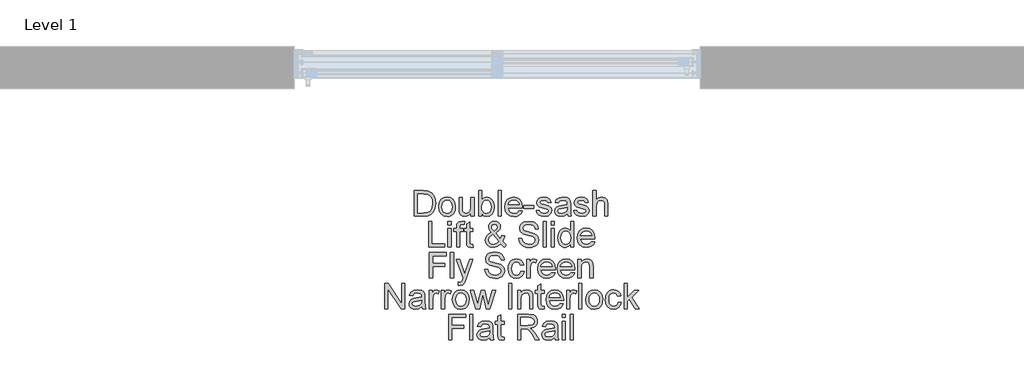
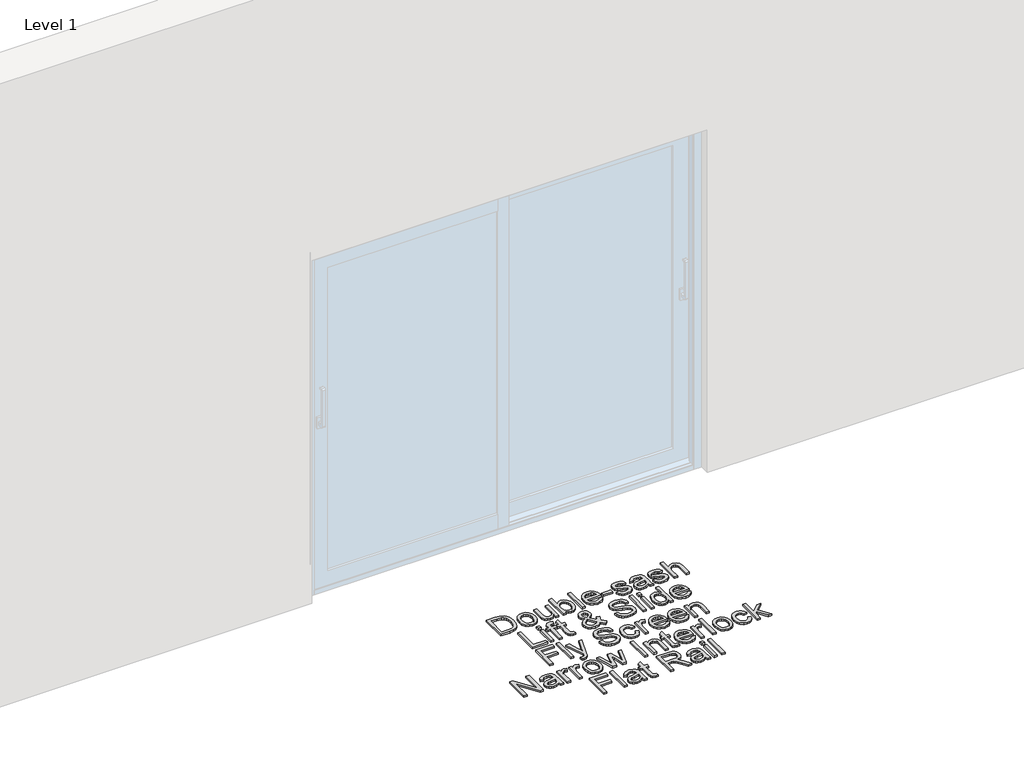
# One storey, part 7 of 11: 1 proxy.
"""IFC4 building model written with IfcOpenShell, lengths in millimetres."""

from ifc_helpers import new_model, si_unit, origin, origin_with_axes, place, context, project, spatial, polyline, outline, extrude, element, save

model = new_model("IFC4")

# Units and contexts
model_context = context("Model", 3, world=origin())
ifc_project = project(units=[si_unit("LENGTHUNIT", "METRE", prefix="MILLI")], contexts=[model_context])

# Site, building, storey
site = spatial("IfcSite", under=ifc_project)
building = spatial("IfcBuilding", under=site)
storey = spatial("IfcBuildingStorey", under=building, Name="Level 1", Elevation=0.0)

# Proxy
placement = place(None, origin())
element("IfcBuildingElementProxy", 1, Name="150mm Arial", ObjectType="150mm Arial", at=placement, inside=storey, context=model_context, shape_type="SweptSolid", body=[
    extrude(outline(polyline([(7088.4009515, -897.6627533), (7088.4009515, -746.9782881), (7140.3826774, -746.9782881), (7167.2748513, -749.1487919), (7189.4213474, -759.9277343), (7199.8416049, -771.4056526), (7207.2636242, -785.679474), (7211.7057993, -802.4732871), (7213.1865243, -821.5111803), (7209.1766105, -851.9166272), (7198.8759147, -873.8607883), (7185.1171281, -887.5276044), (7167.1093044, -895.0875794), (7142.884275, -897.6627533), (7088.4009515, -897.6627533)]), holes=[polyline([(7107.2365097, -878.8271952), (7140.5666184, -878.8271952), (7164.8100419, -876.1048684), (7178.7895577, -868.4161347), (7190.2490819, -849.7093353), (7194.3509661, -821.2168747), (7192.3414107, -800.6890594), (7186.3127445, -785.5323212), (7177.4054017, -775.1212607), (7166.7598165, -768.8304786), (7140.0515836, -765.8138463), (7107.2365097, -765.8138463), (7107.2365097, -878.8271952)])]), origin_with_axes(), (0.0, 0.0, 1.0), 10.0),
    extrude(outline(polyline([(7232.0220824, -842.3333013), (7236.0963755, -815.6526596), (7248.3192548, -796.8998749), (7263.4208107, -787.712022), (7281.5022108, -784.6494044), (7301.2896636, -788.3788081), (7317.0947938, -799.5670193), (7327.4552705, -817.3311212), (7330.9087627, -840.7881969), (7329.3820525, -859.8168931), (7324.8019216, -874.3022466), (7317.3017274, -885.150167), (7307.0148272, -893.2665635), (7294.7965464, -898.3295395), (7281.5022108, -900.0171981), (7261.4756347, -896.30159), (7245.6888986, -885.1547655), (7235.4387865, -867.0181831), (7232.0220824, -842.3333013)]), holes=[polyline([(7250.8576406, -842.2965131), (7253.0373414, -859.343245), (7259.5764439, -871.4879494), (7269.4172873, -878.7582173), (7281.5022108, -881.18164), (7293.531952, -878.7444217), (7303.3544013, -871.4327671), (7309.8935038, -859.1271143), (7312.0732046, -841.7079019), (7309.8797082, -825.1578106), (7303.299219, -813.1786531), (7293.4629742, -805.9083852), (7281.5022108, -803.4849626), (7269.4172873, -805.8991882), (7259.5764439, -813.141865), (7253.0373414, -825.2589782), (7250.8576406, -842.2965131)])]), origin_with_axes(), (0.0, 0.0, 1.0), 10.0),
    extrude(outline(polyline([(7422.7321087, -897.6627533), (7422.7321087, -878.6432542), (7407.9800407, -894.6737121), (7388.7398124, -900.0171981), (7371.0262943, -896.2648018), (7358.8126121, -886.8470227), (7353.2024117, -872.9778715), (7352.0987657, -855.4666885), (7352.0987657, -787.0038492), (7370.9343238, -787.0038492), (7370.9343238, -846.6007324), (7372.074758, -865.8041726), (7379.5243684, -877.0797557), (7393.5590665, -881.18164), (7409.2860218, -876.9877852), (7419.6786882, -865.5650493), (7422.7321087, -844.5773814), (7422.7321087, -787.0038492), (7441.5676669, -787.0038492), (7441.5676669, -897.6627533), (7422.7321087, -897.6627533)])), origin_with_axes(), (0.0, 0.0, 1.0), 10.0),
    extrude(outline(polyline([(7486.3021175, -897.6627533), (7467.4665594, -897.6627533), (7467.4665594, -746.9782881), (7486.3021175, -746.9782881), (7486.3021175, -802.8595632), (7499.490687, -789.2019441), (7515.8798299, -784.6494044), (7534.7521763, -788.7512887), (7549.3938797, -800.2843892), (7558.3885945, -818.2186365), (7561.6443501, -840.6778323), (7558.2736313, -865.8225667), (7548.161475, -884.5293661), (7533.322035, -896.1452401), (7515.7694653, -900.0171981), (7499.0216375, -895.0232), (7486.3021175, -880.0412058), (7486.3021175, -897.6627533)]), holes=[polyline([(7486.3021175, -841.5607491), (7487.5897045, -857.2693103), (7491.4524654, -867.9010999), (7501.3209, -877.861505), (7514.1507845, -881.18164), (7525.0216975, -878.7352247), (7534.3107179, -871.3959789), (7540.6842734, -859.2098878), (7542.808792, -842.2229367), (7540.7716454, -824.9876652), (7534.6602058, -812.9395299), (7525.6608925, -805.8486044), (7514.9601249, -803.4849626), (7504.089212, -805.9313778), (7494.8001916, -813.2706236), (7488.426636, -825.2359855), (7486.3021175, -841.5607491)])]), origin_with_axes(), (0.0, 0.0, 1.0), 10.0),
    extrude(outline(polyline([(7582.834353, -897.6627533), (7582.834353, -746.9782881), (7601.6699112, -746.9782881), (7601.6699112, -897.6627533), (7582.834353, -897.6627533)])), origin_with_axes(), (0.0, 0.0, 1.0), 10.0),
    extrude(outline(polyline([(7707.3991966, -864.7005266), (7725.8668728, -867.0549713), (7719.2128072, -880.9701078), (7708.5948131, -891.3719712), (7694.2520138, -897.8558914), (7676.4235326, -900.0171981), (7654.3230218, -896.2877944), (7637.3176765, -885.0995832), (7626.4743547, -867.1791315), (7622.8599141, -843.2530063), (7626.5111429, -818.5221391), (7637.4648293, -800.0268718), (7654.2402483, -788.4937713), (7675.3566748, -784.6494044), (7695.8155123, -788.4845742), (7712.1632684, -799.9900836), (7722.8824301, -818.4485627), (7726.455484, -843.1426417), (7726.3451194, -848.2194132), (7641.6954723, -848.2194132), (7644.9558265, -862.3184907), (7652.529597, -872.6835659), (7663.4602908, -879.0571214), (7676.7914146, -881.18164), (7695.2590908, -877.2453026), (7707.3991966, -864.7005266)]), holes=[polyline([(7641.6954723, -829.383855), (7707.6199258, -829.383855), (7705.072343, -819.4326471), (7700.0783449, -812.3141305), (7689.0970674, -805.6922545), (7675.2830984, -803.4849626), (7662.5865711, -805.2461976), (7652.0881386, -810.5299028), (7644.7902796, -818.765861), (7641.6954723, -829.383855)])]), origin_with_axes(), (0.0, 0.0, 1.0), 10.0),
    extrude(outline(polyline([(7735.873263, -852.9283027), (7735.873263, -834.0927446), (7794.7343823, -834.0927446), (7794.7343823, -852.9283027), (7735.873263, -852.9283027)])), origin_with_axes(), (0.0, 0.0, 1.0), 10.0),
    extrude(outline(polyline([(7808.8610509, -864.7005266), (7827.696609, -862.3460818), (7830.6672561, -870.4026975), (7836.4154123, -876.3255976), (7856.3914047, -881.18164), (7875.5948448, -876.7302678), (7881.8488387, -866.2824192), (7880.2761432, -861.4815591), (7875.5580566, -857.8211333), (7856.1706755, -852.4500561), (7827.8069736, -843.2346122), (7815.4277445, -832.4740638), (7811.2154956, -817.2805374), (7814.60001, -803.2458393), (7823.8338481, -792.5220791), (7835.808407, -786.9486669), (7852.0136089, -784.6494044), (7874.9326572, -788.3466185), (7889.5007842, -798.3530087), (7895.9755073, -815.2571864), (7877.1399492, -817.6116312), (7870.0582208, -807.2189648), (7853.4851369, -803.4849626), (7835.4589191, -807.0534179), (7830.0510538, -815.367551), (7832.295134, -820.8489927), (7839.3216801, -825.0060593), (7855.5452761, -829.015973), (7883.191608, -837.8819291), (7896.0306896, -847.9251076), (7900.6843969, -864.2958564), (7895.2213492, -882.3220741), (7879.4576058, -895.4002791), (7856.1338873, -900.0171981), (7837.1419793, -897.791512), (7823.2820251, -891.1144538), (7814.0297929, -880.0595999), (7808.8610509, -864.7005266)])), origin_with_axes(), (0.0, 0.0, 1.0), 10.0),
    extrude(outline(polyline([(7992.5077429, -883.5360847), (7974.2424018, -896.30159), (7954.0640744, -900.0171981), (7938.3233235, -897.782315), (7926.712048, -891.0776656), (7919.5521447, -880.8965314), (7917.1655103, -868.2321937), (7920.7707538, -853.3329729), (7930.2437152, -842.5172423), (7943.4322847, -836.3368247), (7959.7294571, -833.5041334), (7992.3973783, -827.0294103), (7992.5077429, -822.8355555), (7991.2109588, -814.4294519), (7987.3206067, -808.9296161), (7978.6201976, -804.846126), (7966.4984858, -803.4849626), (7947.4421985, -807.1086002), (7938.3555132, -819.966076), (7919.519955, -817.6116312), (7927.6685412, -799.2175314), (7944.0760782, -788.438589), (7968.926507, -784.6494044), (7991.7535848, -787.9971306), (8004.6478487, -796.4032342), (8010.423596, -809.1871335), (8011.343301, -825.6682469), (8011.343301, -849.10233), (8012.2997942, -881.8254334), (8016.0521906, -897.6627533), (7997.2166324, -897.6627533), (7992.5077429, -883.5360847)]), holes=[polyline([(7992.5077429, -845.8649684), (7962.1206901, -851.6407157), (7945.9154882, -854.6941363), (7938.5762424, -859.6605432), (7936.0010684, -866.9078185), (7941.6112688, -877.0981498), (7958.0739881, -881.18164), (7977.1302755, -876.6750855), (7989.4175341, -865.7673844), (7992.3973783, -851.1992574), (7992.5077429, -845.8649684)])]), origin_with_axes(), (0.0, 0.0, 1.0), 10.0),
    extrude(outline(polyline([(8030.1788592, -864.7005266), (8049.0144173, -862.3460818), (8051.9850644, -870.4026975), (8057.7332206, -876.3255976), (8077.709213, -881.18164), (8096.9126531, -876.7302678), (8103.166647, -866.2824192), (8101.5939515, -861.4815591), (8096.8758649, -857.8211333), (8077.4884838, -852.4500561), (8049.1247819, -843.2346122), (8036.7455528, -832.4740638), (8032.5333039, -817.2805374), (8035.9178183, -803.2458393), (8045.1516564, -792.5220791), (8057.1262153, -786.9486669), (8073.3314172, -784.6494044), (8096.2504655, -788.3466185), (8110.8185925, -798.3530087), (8117.2933156, -815.2571864), (8098.4577575, -817.6116312), (8091.3760291, -807.2189648), (8074.8029452, -803.4849626), (8056.7767274, -807.0534179), (8051.3688621, -815.367551), (8053.6129423, -820.8489927), (8060.6394884, -825.0060593), (8076.8630844, -829.015973), (8104.5094163, -837.8819291), (8117.3484979, -847.9251076), (8122.0022052, -864.2958564), (8116.5391575, -882.3220741), (8100.7754141, -895.4002791), (8077.4516956, -900.0171981), (8058.4597876, -897.791512), (8044.5998334, -891.1144538), (8035.3476012, -880.0595999), (8030.1788592, -864.7005266)])), origin_with_axes(), (0.0, 0.0, 1.0), 10.0),
    extrude(outline(polyline([(8143.1922081, -897.6627533), (8143.1922081, -746.9782881), (8162.0277662, -746.9782881), (8162.0277662, -802.3813166), (8176.7154549, -789.0823825), (8194.806052, -784.6494044), (8215.9592667, -789.4870527), (8228.7983484, -802.8595632), (8232.6611093, -827.6180215), (8232.6611093, -897.6627533), (8213.8255512, -897.6627533), (8213.8255512, -829.567796), (8212.326432, -817.7771781), (8207.8290746, -809.7021683), (8200.5817993, -805.039264), (8190.8329265, -803.4849626), (8175.4002768, -807.6788173), (8165.0995809, -819.046371), (8162.0277662, -838.8752105), (8162.0277662, -897.6627533), (8143.1922081, -897.6627533)])), origin_with_axes(), (0.0, 0.0, 1.0), 10.0),
    extrude(outline(polyline([(7173.1609632, -1080.6249801), (7173.1609632, -929.9405149), (7191.9965214, -929.9405149), (7191.9965214, -1061.789422), (7267.338754, -1061.789422), (7267.338754, -1080.6249801), (7173.1609632, -1080.6249801)])), origin_with_axes(), (0.0, 0.0, 1.0), 10.0),
    extrude(outline(polyline([(7286.1743121, -948.776073), (7286.1743121, -929.9405149), (7305.0098703, -929.9405149), (7305.0098703, -948.776073), (7286.1743121, -948.776073)])), origin_with_axes(), (0.0, 0.0, 1.0), 10.0),
    extrude(outline(polyline([(7286.1743121, -1080.6249801), (7286.1743121, -969.966076), (7305.0098703, -969.966076), (7305.0098703, -1080.6249801), (7286.1743121, -1080.6249801)])), origin_with_axes(), (0.0, 0.0, 1.0), 10.0),
    extrude(outline(polyline([(7337.9720971, -1080.6249801), (7337.9720971, -988.8016341), (7321.4909837, -988.8016341), (7321.4909837, -969.966076), (7337.9720971, -969.966076), (7337.9720971, -958.8192515), (7339.9586598, -943.1106903), (7349.5971681, -931.8902895), (7368.5798791, -927.5860701), (7385.7599682, -929.6462093), (7383.0008533, -947.3045451), (7372.1483344, -946.4216283), (7360.2841401, -949.5486252), (7356.8076552, -961.2104845), (7356.8076552, -969.966076), (7377.9976581, -969.966076), (7377.9976581, -988.8016341), (7356.8076552, -988.8016341), (7356.8076552, -1080.6249801), (7337.9720971, -1080.6249801)])), origin_with_axes(), (0.0, 0.0, 1.0), 10.0),
    extrude(outline(polyline([(7434.5043326, -1064.9164189), (7436.8587774, -1081.1768031), (7422.7688969, -1082.9794249), (7406.9867593, -1079.8524279), (7399.1140847, -1071.6486594), (7396.8332163, -1050.2747155), (7396.8332163, -988.8016341), (7382.7065477, -988.8016341), (7382.7065477, -969.966076), (7396.8332163, -969.966076), (7396.8332163, -943.0739021), (7415.6687744, -932.0006541), (7415.6687744, -969.966076), (7434.5043326, -969.966076), (7434.5043326, -988.8016341), (7415.6687744, -988.8016341), (7415.6687744, -1049.7228925), (7416.6620558, -1059.4349772), (7419.8810233, -1062.8746738), (7426.3005641, -1064.1438667), (7434.5043326, -1064.9164189)])), origin_with_axes(), (0.0, 0.0, 1.0), 10.0),
    extrude(outline(polyline([(7598.6164906, -1062.0101512), (7578.6404983, -1077.7371064), (7555.2799916, -1082.9794249), (7534.4946589, -1079.0982698), (7518.4917921, -1067.4548047), (7510.2420383, -1054.054703), (7507.4921204, -1039.1646793), (7509.7040109, -1025.9669127), (7516.3396824, -1014.1119154), (7527.3715437, -1003.6088844), (7542.7720038, -994.4670168), (7529.6202224, -975.4107295), (7526.3276786, -961.2840609), (7528.9212467, -948.5645409), (7536.7019508, -937.6292486), (7548.4097953, -930.0968647), (7562.7847843, -927.5860701), (7576.4607975, -929.9865001), (7587.3960898, -937.1877902), (7594.5697887, -947.7552005), (7596.9610217, -960.2539913), (7595.1905896, -970.7478252), (7589.8792933, -980.4507128), (7568.634108, -997.4836492), (7595.8941639, -1031.4391574), (7604.024356, -1010.5802482), (7622.8599141, -1014.6637384), (7609.5425859, -1045.6761906), (7632.2776932, -1068.4848743), (7618.1510246, -1082.9794249), (7598.6164906, -1062.0101512)]), holes=[polyline([(7559.1059644, -985.6010608), (7574.5937964, -973.9208074), (7578.1254635, -962.8291653), (7573.4717563, -951.0017591), (7561.8282911, -946.4216283), (7549.9273086, -950.9649709), (7545.1632367, -962.0566131), (7546.7819175, -968.9544005), (7551.6747481, -976.6247401), (7559.1059644, -985.6010608)]), polyline([(7585.9981382, -1048.4353055), (7552.3737238, -1006.4599699), (7531.6803616, -1022.2421075), (7526.3276786, -1036.6630817), (7528.1578915, -1045.5474319), (7533.6485303, -1054.7628758), (7542.4960923, -1061.798619), (7554.3970748, -1064.1438667), (7571.7059227, -1059.766071), (7585.9981382, -1048.4353055)])]), origin_with_axes(), (0.0, 0.0, 1.0), 10.0),
    extrude(outline(polyline([(7705.265481, -1028.8271952), (7724.1010392, -1028.8271952), (7730.1710921, -1047.6811474), (7744.9967365, -1059.6005241), (7767.584691, -1064.1438667), (7787.2663778, -1060.7041701), (7799.9767007, -1051.2496028), (7804.1521613, -1038.6128563), (7801.0251644, -1026.8590265), (7788.222871, -1018.3057701), (7760.7972682, -1011.1136771), (7731.2747381, -1001.8246567), (7715.2534772, -987.8083527), (7709.9743706, -969.0831592), (7711.6068469, -958.0512978), (7716.504276, -947.7643976), (7724.5378991, -939.0455943), (7735.5789574, -932.7180239), (7763.5012009, -927.5860701), (7793.2996425, -932.9571472), (7804.7223784, -939.5882202), (7813.1652702, -948.7392848), (7818.5087562, -959.840124), (7820.6332747, -972.3205207), (7801.7977166, -972.3205207), (7798.3396258, -961.0817258), (7791.1291387, -952.9699278), (7779.8627526, -948.0587031), (7764.2369649, -946.4216283), (7748.2432951, -948.040309), (7737.2712146, -952.8963514), (7730.9252502, -960.0424591), (7728.8099287, -968.5313362), (7730.3090479, -975.7694144), (7734.8064053, -981.591147), (7765.56134, -992.1125721), (7798.8914488, -1001.5671393), (7809.6290045, -1008.4005474), (7817.1200017, -1016.8342421), (7821.52079, -1026.7762531), (7822.9877195, -1038.1346097), (7821.3000608, -1049.7458851), (7816.2370849, -1060.6673819), (7808.0057252, -1070.0667668), (7796.8129155, -1077.1117071), (7783.353033, -1081.5124954), (7768.320455, -1082.9794249), (7749.8665744, -1081.3975323), (7734.6776466, -1076.6518546), (7722.5789274, -1068.7239976), (7713.3956731, -1057.5955672), (7707.5003642, -1044.0391157), (7705.265481, -1028.8271952)])), origin_with_axes(), (0.0, 0.0, 1.0), 10.0),
    extrude(outline(polyline([(7848.886612, -1080.6249801), (7848.886612, -929.9405149), (7867.7221701, -929.9405149), (7867.7221701, -1080.6249801), (7848.886612, -1080.6249801)])), origin_with_axes(), (0.0, 0.0, 1.0), 10.0),
    extrude(outline(polyline([(7895.9755073, -948.776073), (7895.9755073, -929.9405149), (7914.8110655, -929.9405149), (7914.8110655, -948.776073), (7895.9755073, -948.776073)])), origin_with_axes(), (0.0, 0.0, 1.0), 10.0),
    extrude(outline(polyline([(7895.9755073, -1080.6249801), (7895.9755073, -969.966076), (7914.8110655, -969.966076), (7914.8110655, -1080.6249801), (7895.9755073, -1080.6249801)])), origin_with_axes(), (0.0, 0.0, 1.0), 10.0),
    extrude(outline(polyline([(8011.343301, -1080.6249801), (8011.343301, -1062.8562797), (7998.8812984, -1077.9486386), (7981.655224, -1082.9794249), (7969.47833, -1081.158409), (7958.3315055, -1075.6953614), (7948.8953323, -1066.9719596), (7941.8503921, -1055.3698811), (7937.4633993, -1041.3581756), (7936.0010684, -1025.4058926), (7941.3905396, -995.42351), (7948.1227802, -983.5317245), (7957.5405592, -974.7853301), (7968.9311055, -969.4050559), (7981.5816476, -967.6116312), (7998.9456778, -972.743585), (8011.343301, -986.0793073), (8011.343301, -929.9405149), (8030.1788592, -929.9405149), (8030.1788592, -1080.6249801), (8011.343301, -1080.6249801)]), holes=[polyline([(7954.8366266, -1025.3323162), (7956.9611451, -1042.3698511), (7963.3347007, -1054.4869644), (7972.5961299, -1061.7296411), (7983.3842694, -1064.1438667), (7994.1678104, -1061.8400057), (8003.1947148, -1054.9284227), (8009.3061545, -1043.2803591), (8011.343301, -1026.767056), (8009.2693663, -1008.7132471), (8003.047562, -996.1960622), (7993.7907313, -988.8844076), (7982.6117172, -986.4471893), (7971.7132131, -988.7878385), (7962.7828777, -995.8097861), (7956.8231893, -1007.871717), (7954.8366266, -1025.3323162)])]), origin_with_axes(), (0.0, 0.0, 1.0), 10.0),
    extrude(outline(polyline([(8135.9081446, -1047.6627533), (8154.3758208, -1050.0171981), (8147.7217552, -1063.9323346), (8137.1037611, -1074.334198), (8122.7609618, -1080.8181182), (8104.9324806, -1082.9794249), (8082.8319697, -1079.2500212), (8065.8266245, -1068.06181), (8054.9833027, -1050.1413583), (8051.3688621, -1026.215233), (8055.0200909, -1001.4843659), (8065.9737773, -982.9890986), (8082.7491963, -971.455998), (8103.8656228, -967.6116312), (8124.3244603, -971.446801), (8140.6722164, -982.9523104), (8151.3913781, -1001.4107895), (8154.9644319, -1026.1048684), (8154.8540673, -1031.18164), (8070.2044203, -1031.18164), (8073.4647744, -1045.2807174), (8081.038545, -1055.6457926), (8091.9692388, -1062.0193482), (8105.3003626, -1064.1438667), (8123.7680388, -1060.2075294), (8135.9081446, -1047.6627533)]), holes=[polyline([(8070.2044203, -1012.3460818), (8136.1288738, -1012.3460818), (8133.581291, -1002.3948738), (8128.5872929, -995.2763572), (8117.6060153, -988.6544813), (8103.7920464, -986.4471893), (8091.0955191, -988.2084244), (8080.5970866, -993.4921296), (8073.2992275, -1001.7280877), (8070.2044203, -1012.3460818)])]), origin_with_axes(), (0.0, 0.0, 1.0), 10.0),
    extrude(outline(polyline([(7176.6926304, -1263.5872069), (7176.6926304, -1112.9027417), (7277.9337554, -1112.9027417), (7277.9337554, -1131.7382998), (7195.5281885, -1131.7382998), (7195.5281885, -1176.4727504), (7266.1615316, -1176.4727504), (7266.1615316, -1195.3083086), (7195.5281885, -1195.3083086), (7195.5281885, -1263.5872069), (7176.6926304, -1263.5872069)])), origin_with_axes(), (0.0, 0.0, 1.0), 10.0),
    extrude(outline(polyline([(7301.4782031, -1263.5872069), (7301.4782031, -1112.9027417), (7320.3137613, -1112.9027417), (7320.3137613, -1263.5872069), (7301.4782031, -1263.5872069)])), origin_with_axes(), (0.0, 0.0, 1.0), 10.0),
    extrude(outline(polyline([(7348.5670985, -1305.9672127), (7346.2126537, -1287.8306304), (7355.7775856, -1289.4860993), (7364.7171181, -1287.4075661), (7370.1985598, -1281.6134246), (7375.3489078, -1267.7442734), (7376.8204357, -1263.1825367), (7336.7948747, -1152.9283027), (7356.6605024, -1152.9283027), (7377.8872935, -1214.3645959), (7385.2817216, -1238.9391132), (7392.6761497, -1217.2340755), (7414.4915521, -1152.9283027), (7434.210027, -1152.9283027), (7395.6927821, -1266.2359572), (7385.6863918, -1290.8104745), (7374.7602966, -1304.0910145), (7360.081805, -1308.3216575), (7348.5670985, -1305.9672127)])), origin_with_axes(), (0.0, 0.0, 1.0), 10.0),
    extrude(outline(polyline([(7503.9604533, -1211.789422), (7522.7960114, -1211.789422), (7528.8660644, -1230.6433742), (7543.6917088, -1242.5627509), (7566.2796633, -1247.1060935), (7585.96135, -1243.6663968), (7598.6716729, -1234.2118296), (7602.8471336, -1221.575083), (7599.7201366, -1209.8212533), (7586.9178432, -1201.2679969), (7559.4922404, -1194.0759039), (7529.9697103, -1184.7868835), (7513.9484494, -1170.7705795), (7508.6693428, -1152.0453859), (7510.3018192, -1141.0135246), (7515.1992482, -1130.7266243), (7523.2328713, -1122.007821), (7534.2739297, -1115.6802507), (7562.1961731, -1110.5482969), (7591.9946147, -1115.919374), (7603.4173507, -1122.550447), (7611.8602425, -1131.7015116), (7617.2037284, -1142.8023508), (7619.328247, -1155.2827475), (7600.4926888, -1155.2827475), (7597.0345981, -1144.0439525), (7589.824111, -1135.9321546), (7578.5577248, -1131.0209299), (7562.9319371, -1129.383855), (7546.9382674, -1131.0025358), (7535.9661869, -1135.8585782), (7529.6202224, -1143.0046859), (7527.504901, -1151.4935629), (7529.0040201, -1158.7316412), (7533.5013775, -1164.5533738), (7564.2563123, -1175.0747988), (7597.5864211, -1184.5293661), (7608.3239768, -1191.3627742), (7615.8149739, -1199.7964689), (7620.2157623, -1209.7384798), (7621.6826917, -1221.0968364), (7619.9950331, -1232.7081119), (7614.9320571, -1243.6296086), (7606.7006975, -1253.0289936), (7595.5078878, -1260.0739338), (7582.0480053, -1264.4747222), (7567.0154273, -1265.9416516), (7548.5615467, -1264.3597591), (7533.3726188, -1259.6140813), (7521.2738997, -1251.6862243), (7512.0906454, -1240.557794), (7506.1953364, -1227.0013425), (7503.9604533, -1211.789422)])), origin_with_axes(), (0.0, 0.0, 1.0), 10.0),
    extrude(outline(polyline([(7718.2149273, -1223.5616458), (7737.0504854, -1225.9160906), (7731.7989699, -1242.6685169), (7721.9305354, -1255.3282561), (7708.3740839, -1263.2883028), (7692.0585174, -1265.9416516), (7672.0227442, -1262.2398391), (7656.3555698, -1251.1344013), (7646.2434134, -1233.1127821), (7642.8726947, -1208.662425), (7644.312033, -1191.9008016), (7648.6300479, -1177.3740613), (7655.8957173, -1165.6432242), (7666.1780191, -1157.2693103), (7678.4790733, -1152.247721), (7691.801, -1150.573858), (7707.7164948, -1152.8731204), (7720.4406133, -1159.7709078), (7729.5686853, -1170.8993382), (7734.6960407, -1185.8905295), (7715.8604825, -1188.2449743), (7707.1232851, -1174.1366998), (7691.9481528, -1169.4094161), (7679.7758573, -1171.7362697), (7670.1143564, -1178.7168306), (7663.8097787, -1190.7281777), (7661.7082528, -1208.1473902), (7663.7637935, -1225.8011274), (7669.9304154, -1237.8538613), (7679.4171724, -1244.7930354), (7691.433118, -1247.1060935), (7701.1865894, -1245.6621567), (7709.1834243, -1241.3303462), (7715.0005583, -1234.0002974), (7718.2149273, -1223.5616458)])), origin_with_axes(), (0.0, 0.0, 1.0), 10.0),
    extrude(outline(polyline([(7753.5315988, -1263.5872069), (7753.5315988, -1152.9283027), (7770.0127122, -1152.9283027), (7770.0127122, -1169.2990515), (7781.7113596, -1154.2158897), (7793.4835835, -1150.573858), (7812.392718, -1156.3863935), (7806.1019359, -1173.2721771), (7792.8581841, -1169.4094161), (7782.2080003, -1173.1250243), (7775.4205775, -1183.4257201), (7772.367157, -1205.4250634), (7772.367157, -1263.5872069), (7753.5315988, -1263.5872069)])), origin_with_axes(), (0.0, 0.0, 1.0), 10.0),
    extrude(outline(polyline([(7901.6408901, -1230.6249801), (7920.1085662, -1232.9794249), (7913.4545006, -1246.8945613), (7902.8365065, -1257.2964248), (7888.4937073, -1263.7803449), (7870.6652261, -1265.9416516), (7848.5647152, -1262.2122479), (7831.55937, -1251.0240367), (7820.7160482, -1233.1035851), (7817.1016076, -1209.1774598), (7820.7528364, -1184.4465927), (7831.7065228, -1165.9513254), (7848.4819418, -1154.4182248), (7869.5983683, -1150.573858), (7890.0572057, -1154.4090278), (7906.4049619, -1165.9145372), (7917.1241235, -1184.3730163), (7920.6971774, -1209.0670952), (7920.5868128, -1214.1438667), (7835.9371657, -1214.1438667), (7839.1975199, -1228.2429442), (7846.7712905, -1238.6080194), (7857.7019843, -1244.981575), (7871.0331081, -1247.1060935), (7889.5007842, -1243.1697561), (7901.6408901, -1230.6249801)]), holes=[polyline([(7835.9371657, -1195.3083086), (7901.8616193, -1195.3083086), (7899.3140364, -1185.3571006), (7894.3200384, -1178.238584), (7883.3387608, -1171.6167081), (7869.5247919, -1169.4094161), (7856.8282645, -1171.1706512), (7846.3298321, -1176.4543563), (7839.031973, -1184.6903145), (7835.9371657, -1195.3083086)])]), origin_with_axes(), (0.0, 0.0, 1.0), 10.0),
    extrude(outline(polyline([(8017.0086838, -1230.6249801), (8035.4763599, -1232.9794249), (8028.8222943, -1246.8945613), (8018.2043002, -1257.2964248), (8003.8615009, -1263.7803449), (7986.0330198, -1265.9416516), (7963.9325089, -1262.2122479), (7946.9271637, -1251.0240367), (7936.0838419, -1233.1035851), (7932.4694013, -1209.1774598), (7936.1206301, -1184.4465927), (7947.0743165, -1165.9513254), (7963.8497354, -1154.4182248), (7984.966162, -1150.573858), (8005.4249994, -1154.4090278), (8021.7727556, -1165.9145372), (8032.4919172, -1184.3730163), (8036.0649711, -1209.0670952), (8035.9546065, -1214.1438667), (7951.3049594, -1214.1438667), (7954.5653136, -1228.2429442), (7962.1390842, -1238.6080194), (7973.069778, -1244.981575), (7986.4009018, -1247.1060935), (8004.8685779, -1243.1697561), (8017.0086838, -1230.6249801)]), holes=[polyline([(7951.3049594, -1195.3083086), (8017.2294129, -1195.3083086), (8014.6818301, -1185.3571006), (8009.687832, -1178.238584), (7998.7065545, -1171.6167081), (7984.8925856, -1169.4094161), (7972.1960582, -1171.1706512), (7961.6976258, -1176.4543563), (7954.3997667, -1184.6903145), (7951.3049594, -1195.3083086)])]), origin_with_axes(), (0.0, 0.0, 1.0), 10.0),
    extrude(outline(polyline([(8054.9005293, -1263.5872069), (8054.9005293, -1152.9283027), (8073.7360874, -1152.9283027), (8073.7360874, -1168.3793465), (8088.1386675, -1155.0252301), (8107.8019602, -1150.573858), (8125.5890546, -1154.1607074), (8137.7291605, -1163.5784865), (8143.3761491, -1177.4292436), (8144.3694305, -1195.6394024), (8144.3694305, -1263.5872069), (8125.5338723, -1263.5872069), (8125.5338723, -1198.1777881), (8123.3633686, -1181.5127338), (8115.693029, -1172.70196), (8102.7619768, -1169.4094161), (8091.7301155, -1171.2580231), (8082.326132, -1176.8038442), (8075.8835986, -1187.5184073), (8073.7360874, -1204.8732404), (8073.7360874, -1263.5872069), (8054.9005293, -1263.5872069)])), origin_with_axes(), (0.0, 0.0, 1.0), 10.0),
    extrude(outline(polyline([(6912.9948162, -1446.5494336), (6912.9948162, -1295.8649684), (6933.1547496, -1295.8649684), (7011.8814965, -1415.2426759), (7011.8814965, -1295.8649684), (7030.7170547, -1295.8649684), (7030.7170547, -1446.5494336), (7010.5571213, -1446.5494336), (6931.8303744, -1327.134938), (6931.8303744, -1446.5494336), (6912.9948162, -1446.5494336)])), origin_with_axes(), (0.0, 0.0, 1.0), 10.0),
    extrude(outline(polyline([(7131.9581798, -1432.422765), (7113.6928387, -1445.1882703), (7093.5145113, -1448.9038784), (7077.7737604, -1446.6689953), (7066.1624849, -1439.9643459), (7059.0025816, -1429.7832117), (7056.6159471, -1417.118874), (7060.2211907, -1402.2196532), (7069.6941521, -1391.4039226), (7082.8827216, -1385.223505), (7099.179894, -1382.3908137), (7131.8478152, -1375.9160906), (7131.9581798, -1371.7222358), (7130.6613957, -1363.3161322), (7126.7710436, -1357.8162964), (7118.0706344, -1353.7328063), (7105.9489227, -1352.3716429), (7086.8926353, -1355.9952805), (7077.8059501, -1368.8527563), (7058.9703919, -1366.4983115), (7067.1189781, -1348.1042117), (7083.5265151, -1337.3252693), (7108.3769439, -1333.5360847), (7131.2040217, -1336.8838109), (7144.0982856, -1345.2899145), (7149.8740329, -1358.0738138), (7150.7937379, -1374.5549272), (7150.7937379, -1397.9890103), (7151.7502311, -1430.7121138), (7155.5026274, -1446.5494336), (7136.6670693, -1446.5494336), (7131.9581798, -1432.422765)]), holes=[polyline([(7131.9581798, -1394.7516487), (7101.571127, -1400.527396), (7085.3659251, -1403.5808166), (7078.0266793, -1408.5472235), (7075.4515053, -1415.7944988), (7081.0617057, -1425.9848301), (7097.524425, -1430.0683203), (7116.5807124, -1425.5617658), (7128.867971, -1414.6540647), (7131.8478152, -1400.0859377), (7131.9581798, -1394.7516487)])]), origin_with_axes(), (0.0, 0.0, 1.0), 10.0),
    extrude(outline(polyline([(7176.6926304, -1446.5494336), (7176.6926304, -1335.8905295), (7193.1737438, -1335.8905295), (7193.1737438, -1352.2612783), (7204.8723912, -1337.1781165), (7216.644615, -1333.5360847), (7235.5537496, -1339.3486203), (7229.2629675, -1356.2344038), (7216.0192157, -1352.3716429), (7205.3690319, -1356.087251), (7198.5816091, -1366.3879469), (7195.5281885, -1388.3872902), (7195.5281885, -1446.5494336), (7176.6926304, -1446.5494336)])), origin_with_axes(), (0.0, 0.0, 1.0), 10.0),
    extrude(outline(polyline([(7247.3259734, -1446.5494336), (7247.3259734, -1335.8905295), (7263.8070868, -1335.8905295), (7263.8070868, -1352.2612783), (7275.5057343, -1337.1781165), (7287.2779581, -1333.5360847), (7306.1870927, -1339.3486203), (7299.8963106, -1356.2344038), (7286.6525587, -1352.3716429), (7276.002375, -1356.087251), (7269.2149522, -1366.3879469), (7266.1615316, -1388.3872902), (7266.1615316, -1446.5494336), (7247.3259734, -1446.5494336)])), origin_with_axes(), (0.0, 0.0, 1.0), 10.0),
    extrude(outline(polyline([(7313.250427, -1391.2199816), (7317.3247201, -1364.5393399), (7329.5475994, -1345.7865552), (7344.6491553, -1336.5987023), (7362.7305553, -1333.5360847), (7382.5180081, -1337.2654885), (7398.3231384, -1348.4536996), (7408.6836151, -1366.2178015), (7412.1371073, -1389.6748772), (7410.610397, -1408.7035734), (7406.0302662, -1423.188927), (7398.530072, -1434.0368473), (7388.2431717, -1442.1532438), (7376.0248909, -1447.2162198), (7362.7305553, -1448.9038784), (7342.7039792, -1445.1882703), (7326.9172431, -1434.0414458), (7316.667131, -1415.9048634), (7313.250427, -1391.2199816)]), holes=[polyline([(7332.0859851, -1391.1831934), (7334.265686, -1408.2299253), (7340.8047884, -1420.3746297), (7350.6456318, -1427.6448976), (7362.7305553, -1430.0683203), (7374.7602966, -1427.631102), (7384.5827458, -1420.3194474), (7391.1218483, -1408.0137947), (7393.3015491, -1390.5945822), (7391.1080527, -1374.0444909), (7384.5275635, -1362.0653335), (7374.6913187, -1354.7950655), (7362.7305553, -1352.3716429), (7350.6456318, -1354.7858685), (7340.8047884, -1362.0285453), (7334.265686, -1374.1456585), (7332.0859851, -1391.1831934)])]), origin_with_axes(), (0.0, 0.0, 1.0), 10.0),
    extrude(outline(polyline([(7451.6844218, -1446.5494336), (7418.0232192, -1335.8905295), (7437.5945413, -1335.8905295), (7456.6876169, -1400.4538196), (7462.3897878, -1423.5200207), (7467.0618892, -1401.2999482), (7482.2554156, -1335.8905295), (7504.6962173, -1335.8905295), (7519.8161673, -1401.1160072), (7523.9732338, -1421.2391524), (7529.9329221, -1400.0123613), (7549.0627859, -1335.8905295), (7568.7076844, -1335.8905295), (7534.7889645, -1446.5494336), (7512.017069, -1446.5494336), (7497.5593066, -1381.6550497), (7493.3654518, -1361.42154), (7474.7138347, -1446.5494336), (7451.6844218, -1446.5494336)])), origin_with_axes(), (0.0, 0.0, 1.0), 10.0),
    extrude(outline(polyline([(7645.2271394, -1446.5494336), (7645.2271394, -1295.8649684), (7664.0626976, -1295.8649684), (7664.0626976, -1446.5494336), (7645.2271394, -1446.5494336)])), origin_with_axes(), (0.0, 0.0, 1.0), 10.0),
    extrude(outline(polyline([(7699.3793691, -1446.5494336), (7699.3793691, -1335.8905295), (7718.2149273, -1335.8905295), (7718.2149273, -1351.3415733), (7732.6175074, -1337.9874569), (7752.2808, -1333.5360847), (7770.0678945, -1337.1229342), (7782.2080003, -1346.5407133), (7787.854989, -1360.3914704), (7788.8482703, -1378.6016291), (7788.8482703, -1446.5494336), (7770.0127122, -1446.5494336), (7770.0127122, -1381.1400149), (7767.8422084, -1364.4749605), (7760.1718688, -1355.6641867), (7747.2408167, -1352.3716429), (7736.2089554, -1354.2202499), (7726.8049719, -1359.766071), (7720.3624384, -1370.4806341), (7718.2149273, -1387.8354672), (7718.2149273, -1446.5494336), (7699.3793691, -1446.5494336)])), origin_with_axes(), (0.0, 0.0, 1.0), 10.0),
    extrude(outline(polyline([(7854.7727239, -1430.8408725), (7857.1271686, -1447.1012566), (7843.0372882, -1448.9038784), (7827.2551506, -1445.7768815), (7819.3824759, -1437.573113), (7817.1016076, -1416.199169), (7817.1016076, -1354.7260876), (7802.974939, -1354.7260876), (7802.974939, -1335.8905295), (7817.1016076, -1335.8905295), (7817.1016076, -1308.9983556), (7835.9371657, -1297.9251076), (7835.9371657, -1335.8905295), (7854.7727239, -1335.8905295), (7854.7727239, -1354.7260876), (7835.9371657, -1354.7260876), (7835.9371657, -1415.6473461), (7836.9304471, -1425.3594307), (7840.1494146, -1428.7991274), (7846.5689554, -1430.0683203), (7854.7727239, -1430.8408725)])), origin_with_axes(), (0.0, 0.0, 1.0), 10.0),
    extrude(outline(polyline([(7951.0842302, -1413.5872069), (7969.5519064, -1415.9416516), (7962.8978408, -1429.8567881), (7952.2798467, -1440.2586515), (7937.9370474, -1446.7425717), (7920.1085662, -1448.9038784), (7898.0080554, -1445.1744747), (7881.0027101, -1433.9862635), (7870.1593883, -1416.0658118), (7866.5449477, -1392.1396866), (7870.1961765, -1367.4088194), (7881.1498629, -1348.9135521), (7897.9252819, -1337.3804516), (7919.0417084, -1333.5360847), (7939.5005459, -1337.3712545), (7955.8483021, -1348.8767639), (7966.5674637, -1367.335243), (7970.1405176, -1392.029322), (7970.030153, -1397.1060935), (7885.3805059, -1397.1060935), (7888.6408601, -1411.205171), (7896.2146306, -1421.5702462), (7907.1453244, -1427.9438017), (7920.4764482, -1430.0683203), (7938.9441244, -1426.1319829), (7951.0842302, -1413.5872069)]), holes=[polyline([(7885.3805059, -1378.2705353), (7951.3049594, -1378.2705353), (7948.7573766, -1368.3193274), (7943.7633785, -1361.2008108), (7932.782101, -1354.5789349), (7918.968132, -1352.3716429), (7906.2716047, -1354.1328779), (7895.7731722, -1359.4165831), (7888.4753132, -1367.6525413), (7885.3805059, -1378.2705353)])]), origin_with_axes(), (0.0, 0.0, 1.0), 10.0),
    extrude(outline(polyline([(7988.9760757, -1446.5494336), (7988.9760757, -1335.8905295), (8005.4571891, -1335.8905295), (8005.4571891, -1352.2612783), (8017.1558365, -1337.1781165), (8028.9280604, -1333.5360847), (8047.8371949, -1339.3486203), (8041.5464128, -1356.2344038), (8028.302661, -1352.3716429), (8017.6524772, -1356.087251), (8010.8650544, -1366.3879469), (8007.8116339, -1388.3872902), (8007.8116339, -1446.5494336), (7988.9760757, -1446.5494336)])), origin_with_axes(), (0.0, 0.0, 1.0), 10.0),
    extrude(outline(polyline([(8059.6094188, -1446.5494336), (8059.6094188, -1295.8649684), (8078.4449769, -1295.8649684), (8078.4449769, -1446.5494336), (8059.6094188, -1446.5494336)])), origin_with_axes(), (0.0, 0.0, 1.0), 10.0),
    extrude(outline(polyline([(8101.9894246, -1391.2199816), (8106.0637177, -1364.5393399), (8118.286597, -1345.7865552), (8133.3881529, -1336.5987023), (8151.469553, -1333.5360847), (8171.2570058, -1337.2654885), (8187.062136, -1348.4536996), (8197.4226127, -1366.2178015), (8200.8761049, -1389.6748772), (8199.3493947, -1408.7035734), (8194.7692638, -1423.188927), (8187.2690696, -1434.0368473), (8176.9821694, -1442.1532438), (8164.7638886, -1447.2162198), (8151.469553, -1448.9038784), (8131.4429769, -1445.1882703), (8115.6562408, -1434.0414458), (8105.4061287, -1415.9048634), (8101.9894246, -1391.2199816)]), holes=[polyline([(8120.8249828, -1391.1831934), (8123.0046836, -1408.2299253), (8129.5437861, -1420.3746297), (8139.3846294, -1427.6448976), (8151.469553, -1430.0683203), (8163.4992942, -1427.631102), (8173.3217435, -1420.3194474), (8179.860846, -1408.0137947), (8182.0405468, -1390.5945822), (8179.8470504, -1374.0444909), (8173.2665612, -1362.0653335), (8163.4303164, -1354.7950655), (8151.469553, -1352.3716429), (8139.3846294, -1354.7858685), (8129.5437861, -1362.0285453), (8123.0046836, -1374.1456585), (8120.8249828, -1391.1831934)])]), origin_with_axes(), (0.0, 0.0, 1.0), 10.0),
    extrude(outline(polyline([(8292.6994509, -1406.5238726), (8311.5350091, -1408.8783173), (8306.2834936, -1425.6307437), (8296.4150591, -1438.2904829), (8282.8586076, -1446.2505295), (8266.5430411, -1448.9038784), (8246.5072679, -1445.2020658), (8230.8400934, -1434.0966281), (8220.7279371, -1416.0750089), (8217.3572183, -1391.6246518), (8218.7965566, -1374.8630284), (8223.1145715, -1360.3362881), (8230.380241, -1348.605451), (8240.6625427, -1340.231537), (8252.9635969, -1335.2099478), (8266.2855237, -1333.5360847), (8282.2010185, -1335.8353472), (8294.925137, -1342.7331346), (8304.053209, -1353.861565), (8309.1805643, -1368.8527563), (8290.3450062, -1371.207201), (8281.6078088, -1357.0989265), (8266.4326765, -1352.3716429), (8254.260381, -1354.6984965), (8244.5988801, -1361.6790574), (8238.2943024, -1373.6904045), (8236.1927765, -1391.109617), (8238.2483171, -1408.7633542), (8244.4149391, -1420.8160881), (8253.901696, -1427.7552622), (8265.9176417, -1430.0683203), (8275.6711131, -1428.6243834), (8283.667948, -1424.2925729), (8289.485082, -1416.9625242), (8292.6994509, -1406.5238726)])), origin_with_axes(), (0.0, 0.0, 1.0), 10.0),
    extrude(outline(polyline([(8328.0161225, -1446.5494336), (8328.0161225, -1295.8649684), (8346.8516806, -1295.8649684), (8346.8516806, -1376.8357956), (8389.0845337, -1335.8905295), (8415.1305789, -1335.8905295), (8372.3826911, -1377.3508304), (8417.4850237, -1446.5494336), (8395.4856804, -1446.5494336), (8358.8814219, -1390.4474294), (8346.8516806, -1402.1092886), (8346.8516806, -1446.5494336), (8328.0161225, -1446.5494336)])), origin_with_axes(), (0.0, 0.0, 1.0), 10.0),
    extrude(outline(polyline([(7290.8832017, -1629.5116604), (7290.8832017, -1478.8271952), (7392.1243267, -1478.8271952), (7392.1243267, -1497.6627533), (7309.7187598, -1497.6627533), (7309.7187598, -1542.397204), (7380.3521029, -1542.397204), (7380.3521029, -1561.2327621), (7309.7187598, -1561.2327621), (7309.7187598, -1629.5116604), (7290.8832017, -1629.5116604)])), origin_with_axes(), (0.0, 0.0, 1.0), 10.0),
    extrude(outline(polyline([(7415.6687744, -1629.5116604), (7415.6687744, -1478.8271952), (7434.5043326, -1478.8271952), (7434.5043326, -1629.5116604), (7415.6687744, -1629.5116604)])), origin_with_axes(), (0.0, 0.0, 1.0), 10.0),
    extrude(outline(polyline([(7533.3910129, -1615.3849918), (7515.1256718, -1628.150497), (7494.9473444, -1631.8661052), (7479.2065935, -1629.6312221), (7467.5953181, -1622.9265727), (7460.4354147, -1612.7454385), (7458.0487803, -1600.0811008), (7461.6540238, -1585.18188), (7471.1269852, -1574.3661493), (7484.3155547, -1568.1857318), (7500.6127271, -1565.3530405), (7533.2806483, -1558.8783173), (7533.3910129, -1554.6844626), (7532.0942289, -1546.278359), (7528.2038768, -1540.7785232), (7519.5034676, -1536.695033), (7507.3817558, -1535.3338696), (7488.3254685, -1538.9575073), (7479.2387832, -1551.814983), (7460.403225, -1549.4605383), (7468.5518112, -1531.0664385), (7484.9593482, -1520.287496), (7509.809777, -1516.4983115), (7532.6368548, -1519.8460377), (7545.5311187, -1528.2521412), (7551.3068661, -1541.0360406), (7552.226571, -1557.517154), (7552.226571, -1580.9512371), (7553.1830642, -1613.6743405), (7556.9354606, -1629.5116604), (7538.0999024, -1629.5116604), (7533.3910129, -1615.3849918)]), holes=[polyline([(7533.3910129, -1577.7138755), (7503.0039601, -1583.4896228), (7486.7987582, -1586.5430434), (7479.4595124, -1591.5094503), (7476.8843384, -1598.7567256), (7482.4945389, -1608.9470569), (7498.9572581, -1613.030547), (7518.0135455, -1608.5239926), (7530.3008041, -1597.6162914), (7533.2806483, -1583.0481644), (7533.3910129, -1577.7138755)])]), origin_with_axes(), (0.0, 0.0, 1.0), 10.0),
    extrude(outline(polyline([(7618.1510246, -1613.8030992), (7620.5054693, -1630.0634834), (7606.4155889, -1631.8661052), (7590.6334513, -1628.7391082), (7582.7607766, -1620.5353397), (7580.4799083, -1599.1613958), (7580.4799083, -1537.6883144), (7566.3532397, -1537.6883144), (7566.3532397, -1518.8527563), (7580.4799083, -1518.8527563), (7580.4799083, -1491.9605824), (7599.3154664, -1480.8873344), (7599.3154664, -1518.8527563), (7618.1510246, -1518.8527563), (7618.1510246, -1537.6883144), (7599.3154664, -1537.6883144), (7599.3154664, -1598.6095728), (7600.3087478, -1608.3216575), (7603.5277153, -1611.7613541), (7609.9472561, -1613.030547), (7618.1510246, -1613.8030992)])), origin_with_axes(), (0.0, 0.0, 1.0), 10.0),
    extrude(outline(polyline([(7698.2021467, -1629.5116604), (7698.2021467, -1478.8271952), (7763.1333189, -1478.8271952), (7793.2812484, -1482.8922912), (7802.5610717, -1488.5208858), (7809.7623618, -1497.2764772), (7814.3838793, -1508.1335946), (7815.9243852, -1520.0667668), (7813.3722038, -1534.9108054), (7805.7156598, -1547.2164581), (7792.7248269, -1556.238764), (7774.1697787, -1561.2327621), (7784.8751448, -1569.2893778), (7800.1422476, -1588.6767589), (7825.2685879, -1629.5116604), (7803.3796092, -1629.5116604), (7783.7714988, -1598.278479), (7769.608042, -1577.6035109), (7759.656834, -1567.8362439), (7750.6989074, -1564.2493945), (7739.7728122, -1563.5872069), (7717.0377049, -1563.5872069), (7717.0377049, -1629.5116604), (7698.2021467, -1629.5116604)]), holes=[polyline([(7717.0377049, -1544.7516487), (7759.1969815, -1544.7516487), (7780.6996841, -1542.0845043), (7792.9133664, -1533.549642), (7797.088827, -1520.7657426), (7795.0976657, -1511.5778898), (7789.1241818, -1504.1742647), (7778.8464786, -1499.2906312), (7763.9426593, -1497.6627533), (7717.0377049, -1497.6627533), (7717.0377049, -1544.7516487)])]), origin_with_axes(), (0.0, 0.0, 1.0), 10.0),
    extrude(outline(polyline([(7917.1655103, -1615.3849918), (7898.9001692, -1628.150497), (7878.7218418, -1631.8661052), (7862.9810909, -1629.6312221), (7851.3698154, -1622.9265727), (7844.2099121, -1612.7454385), (7841.8232776, -1600.0811008), (7845.4285212, -1585.18188), (7854.9014826, -1574.3661493), (7868.0900521, -1568.1857318), (7884.3872245, -1565.3530405), (7917.0551457, -1558.8783173), (7917.1655103, -1554.6844626), (7915.8687262, -1546.278359), (7911.9783741, -1540.7785232), (7903.2779649, -1536.695033), (7891.1562532, -1535.3338696), (7872.0999659, -1538.9575073), (7863.0132806, -1551.814983), (7844.1777224, -1549.4605383), (7852.3263086, -1531.0664385), (7868.7338456, -1520.287496), (7893.5842744, -1516.4983115), (7916.4113522, -1519.8460377), (7929.3056161, -1528.2521412), (7935.0813634, -1541.0360406), (7936.0010684, -1557.517154), (7936.0010684, -1580.9512371), (7936.9575616, -1613.6743405), (7940.709958, -1629.5116604), (7921.8743998, -1629.5116604), (7917.1655103, -1615.3849918)]), holes=[polyline([(7917.1655103, -1577.7138755), (7886.7784575, -1583.4896228), (7870.5732556, -1586.5430434), (7863.2340098, -1591.5094503), (7860.6588358, -1598.7567256), (7866.2690362, -1608.9470569), (7882.7317555, -1613.030547), (7901.7880429, -1608.5239926), (7914.0753015, -1597.6162914), (7917.0551457, -1583.0481644), (7917.1655103, -1577.7138755)])]), origin_with_axes(), (0.0, 0.0, 1.0), 10.0),
    extrude(outline(polyline([(7961.8999609, -1497.6627533), (7961.8999609, -1478.8271952), (7980.735519, -1478.8271952), (7980.735519, -1497.6627533), (7961.8999609, -1497.6627533)])), origin_with_axes(), (0.0, 0.0, 1.0), 10.0),
    extrude(outline(polyline([(7961.8999609, -1629.5116604), (7961.8999609, -1518.8527563), (7980.735519, -1518.8527563), (7980.735519, -1629.5116604), (7961.8999609, -1629.5116604)])), origin_with_axes(), (0.0, 0.0, 1.0), 10.0),
    extrude(outline(polyline([(8008.9888563, -1629.5116604), (8008.9888563, -1478.8271952), (8027.8244144, -1478.8271952), (8027.8244144, -1629.5116604), (8008.9888563, -1629.5116604)])), origin_with_axes(), (0.0, 0.0, 1.0), 10.0),
])

save(model, "model.ifc")
